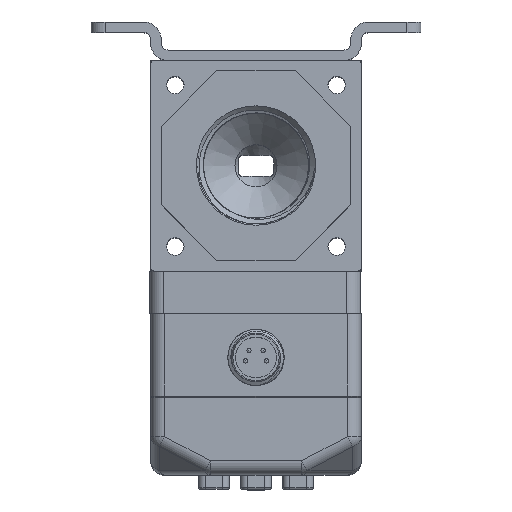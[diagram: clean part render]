
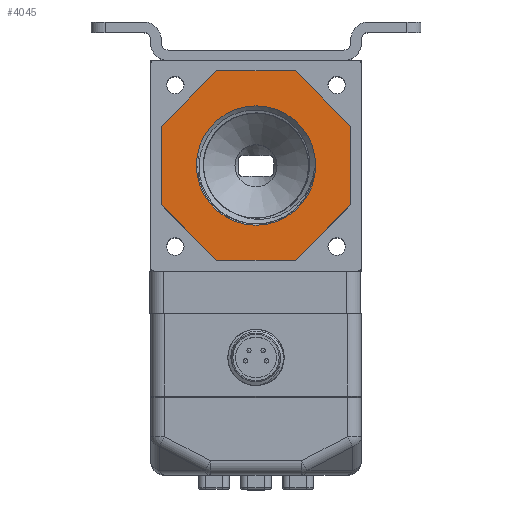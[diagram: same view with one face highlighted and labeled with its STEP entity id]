
A CAD part, top view. The second image highlights one B-rep face of the part: STEP entity #4045.
In plain terms, the highlighted planar face has unit normal (0, 0, 1).
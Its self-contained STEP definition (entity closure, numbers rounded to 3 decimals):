
#4045=ADVANCED_FACE('',(#5217,#5218),#4738,.T.);
#4738=PLANE('',#22249);
#5217=FACE_BOUND('',#6567,.T.);
#5218=FACE_BOUND('',#6568,.T.);
#6567=EDGE_LOOP('',(#11786));
#6568=EDGE_LOOP('',(#11787,#11788,#11789,#11790,#11791,#11792,#11793,#11794));
#11786=ORIENTED_EDGE('',*,*,#16388,.F.);
#11787=ORIENTED_EDGE('',*,*,#16389,.F.);
#11788=ORIENTED_EDGE('',*,*,#16390,.F.);
#11789=ORIENTED_EDGE('',*,*,#16391,.F.);
#11790=ORIENTED_EDGE('',*,*,#16392,.F.);
#11791=ORIENTED_EDGE('',*,*,#16393,.F.);
#11792=ORIENTED_EDGE('',*,*,#16394,.F.);
#11793=ORIENTED_EDGE('',*,*,#16395,.F.);
#11794=ORIENTED_EDGE('',*,*,#16396,.F.);
#13746=VERTEX_POINT('',#39876);
#13747=VERTEX_POINT('',#39878);
#13748=VERTEX_POINT('',#39879);
#13749=VERTEX_POINT('',#39881);
#13750=VERTEX_POINT('',#39883);
#13751=VERTEX_POINT('',#39885);
#13752=VERTEX_POINT('',#39887);
#13753=VERTEX_POINT('',#39889);
#13754=VERTEX_POINT('',#39891);
#16388=EDGE_CURVE('',#13746,#13746,#20631,.T.);
#16389=EDGE_CURVE('',#13747,#13748,#18072,.T.);
#16390=EDGE_CURVE('',#13749,#13747,#18073,.T.);
#16391=EDGE_CURVE('',#13750,#13749,#18074,.T.);
#16392=EDGE_CURVE('',#13751,#13750,#18075,.T.);
#16393=EDGE_CURVE('',#13752,#13751,#18076,.T.);
#16394=EDGE_CURVE('',#13753,#13752,#18077,.T.);
#16395=EDGE_CURVE('',#13754,#13753,#18078,.T.);
#16396=EDGE_CURVE('',#13748,#13754,#18079,.T.);
#18072=LINE('',#39877,#19764);
#18073=LINE('',#39880,#19765);
#18074=LINE('',#39882,#19766);
#18075=LINE('',#39884,#19767);
#18076=LINE('',#39886,#19768);
#18077=LINE('',#39888,#19769);
#18078=LINE('',#39890,#19770);
#18079=LINE('',#39892,#19771);
#19764=VECTOR('',#27147,1.);
#19765=VECTOR('',#27148,1.);
#19766=VECTOR('',#27149,1.);
#19767=VECTOR('',#27150,1.);
#19768=VECTOR('',#27151,1.);
#19769=VECTOR('',#27152,1.);
#19770=VECTOR('',#27153,1.);
#19771=VECTOR('',#27154,1.);
#20631=CIRCLE('',#22248,8.5);
#22248=AXIS2_PLACEMENT_3D('',#39875,#27145,#27146);
#22249=AXIS2_PLACEMENT_3D('',#39893,#27155,#27156);
#27145=DIRECTION('',(0.,0.,1.));
#27146=DIRECTION('',(1.,0.,0.));
#27147=DIRECTION('',(-1.,0.,0.));
#27148=DIRECTION('',(-0.707,-0.707,0.));
#27149=DIRECTION('',(0.,-1.,0.));
#27150=DIRECTION('',(0.707,-0.707,0.));
#27151=DIRECTION('',(1.,0.,0.));
#27152=DIRECTION('',(0.707,0.707,0.));
#27153=DIRECTION('',(0.,1.,0.));
#27154=DIRECTION('',(-0.707,0.707,0.));
#27155=DIRECTION('',(0.,0.,1.));
#27156=DIRECTION('',(1.,0.,0.));
#39875=CARTESIAN_POINT('',(-5.,4.,33.));
#39876=CARTESIAN_POINT('',(3.5,4.,33.));
#39877=CARTESIAN_POINT('',(-10.592,-9.5,33.));
#39878=CARTESIAN_POINT('',(0.592,-9.5,33.));
#39879=CARTESIAN_POINT('',(-10.592,-9.5,33.));
#39880=CARTESIAN_POINT('',(0.592,-9.5,33.));
#39881=CARTESIAN_POINT('',(8.5,-1.592,33.));
#39882=CARTESIAN_POINT('',(8.5,-1.592,33.));
#39883=CARTESIAN_POINT('',(8.5,9.592,33.));
#39884=CARTESIAN_POINT('',(8.5,9.592,33.));
#39885=CARTESIAN_POINT('',(0.592,17.5,33.));
#39886=CARTESIAN_POINT('',(0.592,17.5,33.));
#39887=CARTESIAN_POINT('',(-10.592,17.5,33.));
#39888=CARTESIAN_POINT('',(-10.592,17.5,33.));
#39889=CARTESIAN_POINT('',(-18.5,9.592,33.));
#39890=CARTESIAN_POINT('',(-18.5,9.592,33.));
#39891=CARTESIAN_POINT('',(-18.5,-1.592,33.));
#39892=CARTESIAN_POINT('',(-18.5,-1.592,33.));
#39893=CARTESIAN_POINT('',(-7.5,4.,33.));
